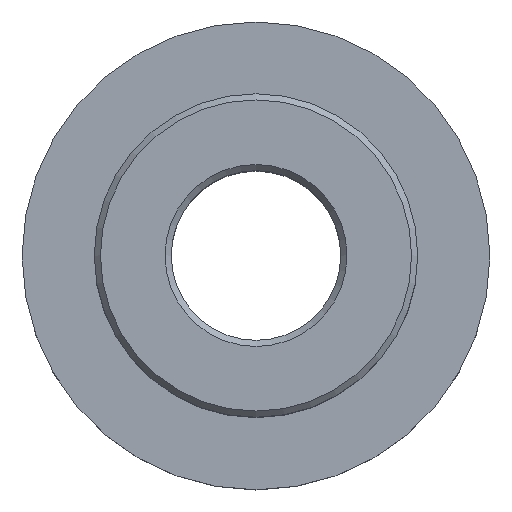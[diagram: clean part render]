
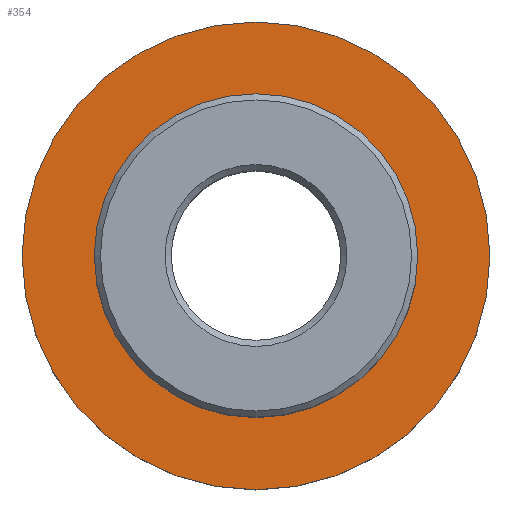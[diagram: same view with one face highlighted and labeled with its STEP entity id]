
A CAD part, top view. The second image highlights one B-rep face of the part: STEP entity #354.
In plain terms, the highlighted planar face has unit normal (0, 0, 1).
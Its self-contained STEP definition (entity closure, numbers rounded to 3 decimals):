
#180 = CYLINDRICAL_SURFACE('',#181,34.2);
#181 = AXIS2_PLACEMENT_3D('',#182,#183,#184);
#182 = CARTESIAN_POINT('',(0.,0.,0.));
#183 = DIRECTION('',(0.,0.,1.));
#184 = DIRECTION('',(1.,0.,-0.));
#251 = VERTEX_POINT('',#252);
#252 = CARTESIAN_POINT('',(34.2,0.,12.4));
#275 = EDGE_CURVE('',#251,#251,#276,.T.);
#276 = SURFACE_CURVE('',#277,(#282,#289),.PCURVE_S1.);
#277 = CIRCLE('',#278,34.2);
#278 = AXIS2_PLACEMENT_3D('',#279,#280,#281);
#279 = CARTESIAN_POINT('',(0.,0.,12.4));
#280 = DIRECTION('',(0.,0.,1.));
#281 = DIRECTION('',(1.,0.,-0.));
#282 = PCURVE('',#180,#283);
#283 = DEFINITIONAL_REPRESENTATION('',(#284),#288);
#284 = LINE('',#285,#286);
#285 = CARTESIAN_POINT('',(0.,12.4));
#286 = VECTOR('',#287,1.);
#287 = DIRECTION('',(1.,0.));
#288 = ( GEOMETRIC_REPRESENTATION_CONTEXT(2) 
PARAMETRIC_REPRESENTATION_CONTEXT() REPRESENTATION_CONTEXT('2D SPACE',''
  ) );
#289 = PCURVE('',#290,#295);
#290 = PLANE('',#291);
#291 = AXIS2_PLACEMENT_3D('',#292,#293,#294);
#292 = CARTESIAN_POINT('',(0.,0.,12.4));
#293 = DIRECTION('',(0.,0.,1.));
#294 = DIRECTION('',(1.,0.,-0.));
#295 = DEFINITIONAL_REPRESENTATION('',(#296),#300);
#296 = CIRCLE('',#297,34.2);
#297 = AXIS2_PLACEMENT_2D('',#298,#299);
#298 = CARTESIAN_POINT('',(0.,0.));
#299 = DIRECTION('',(1.,0.));
#300 = ( GEOMETRIC_REPRESENTATION_CONTEXT(2) 
PARAMETRIC_REPRESENTATION_CONTEXT() REPRESENTATION_CONTEXT('2D SPACE',''
  ) );
#354 = ADVANCED_FACE('',(#355,#358),#290,.T.);
#355 = FACE_BOUND('',#356,.T.);
#356 = EDGE_LOOP('',(#357));
#357 = ORIENTED_EDGE('',*,*,#275,.T.);
#358 = FACE_BOUND('',#359,.T.);
#359 = EDGE_LOOP('',(#360));
#360 = ORIENTED_EDGE('',*,*,#361,.F.);
#361 = EDGE_CURVE('',#362,#362,#364,.T.);
#362 = VERTEX_POINT('',#363);
#363 = CARTESIAN_POINT('',(23.645,0.,12.4));
#364 = SURFACE_CURVE('',#365,(#370,#377),.PCURVE_S1.);
#365 = CIRCLE('',#366,23.645);
#366 = AXIS2_PLACEMENT_3D('',#367,#368,#369);
#367 = CARTESIAN_POINT('',(0.,0.,12.4));
#368 = DIRECTION('',(0.,0.,1.));
#369 = DIRECTION('',(1.,0.,-0.));
#370 = PCURVE('',#290,#371);
#371 = DEFINITIONAL_REPRESENTATION('',(#372),#376);
#372 = CIRCLE('',#373,23.645);
#373 = AXIS2_PLACEMENT_2D('',#374,#375);
#374 = CARTESIAN_POINT('',(0.,0.));
#375 = DIRECTION('',(1.,0.));
#376 = ( GEOMETRIC_REPRESENTATION_CONTEXT(2) 
PARAMETRIC_REPRESENTATION_CONTEXT() REPRESENTATION_CONTEXT('2D SPACE',''
  ) );
#377 = PCURVE('',#378,#383);
#378 = CYLINDRICAL_SURFACE('',#379,23.645);
#379 = AXIS2_PLACEMENT_3D('',#380,#381,#382);
#380 = CARTESIAN_POINT('',(0.,0.,12.4));
#381 = DIRECTION('',(0.,0.,1.));
#382 = DIRECTION('',(1.,0.,-0.));
#383 = DEFINITIONAL_REPRESENTATION('',(#384),#388);
#384 = LINE('',#385,#386);
#385 = CARTESIAN_POINT('',(0.,0.));
#386 = VECTOR('',#387,1.);
#387 = DIRECTION('',(1.,0.));
#388 = ( GEOMETRIC_REPRESENTATION_CONTEXT(2) 
PARAMETRIC_REPRESENTATION_CONTEXT() REPRESENTATION_CONTEXT('2D SPACE',''
  ) );
